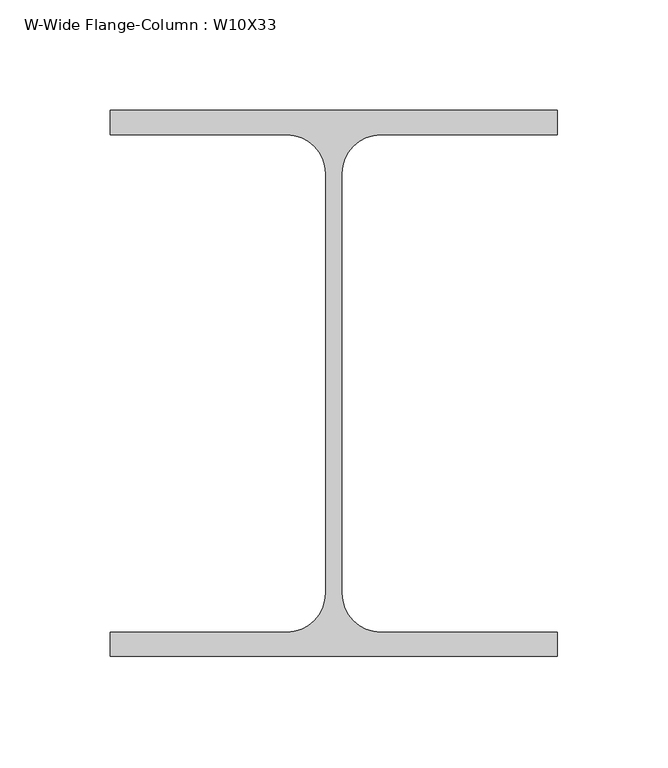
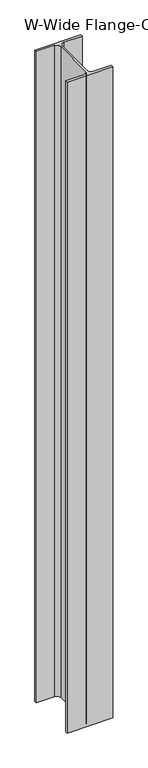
"""IFC4 building model written with IfcOpenShell, lengths in millimetres: column geometry, W-Wide Flange-Column : W10X33."""

from ifc_helpers import new_model, si_unit, point, frame_2d, origin, origin_with_axes, place, context, project, spatial, polyline, circle_curve, trimmed, segment, composite_curve, outline, extrude, source, transform, mapped, element, save


def w_wide_flange_column_w10x33_7f7bc32a(model_context):
    return source(origin(), model_context, "Body", "SweptSolid", [
        extrude(outline(composite_curve([segment(polyline([(101.1039062, 123.5769531), (101.1039062, 112.5636719), (21.2328125, 112.5636719)]), True, "CONTINUOUS"), segment(trimmed(circle_curve(frame_2d((21.2328125, 95.0019531)), 17.5617188), [point((21.2328125, 112.5636719))], [point((3.6710937, 95.0019531))], True, "CARTESIAN"), True, "CONTINUOUS"), segment(polyline([(3.6710937, 95.0019531), (3.6710937, -95.0019531)]), True, "CONTINUOUS"), segment(trimmed(circle_curve(frame_2d((21.2328125, -95.0019531)), 17.5617188), [point((3.6710937, -95.0019531))], [point((21.2328125, -112.5636719))], True, "CARTESIAN"), True, "CONTINUOUS"), segment(polyline([(21.2328125, -112.5636719), (101.1039062, -112.5636719), (101.1039062, -123.5769531), (-101.1039063, -123.5769531), (-101.1039063, -112.5636719), (-21.2328125, -112.5636719)]), True, "CONTINUOUS"), segment(trimmed(circle_curve(frame_2d((-21.2328125, -95.0019531)), 17.5617188), [point((-21.2328125, -112.5636719))], [point((-3.6710938, -95.0019531))], True, "CARTESIAN"), True, "CONTINUOUS"), segment(polyline([(-3.6710938, -95.0019531), (-3.6710938, 95.0019531)]), True, "CONTINUOUS"), segment(trimmed(circle_curve(frame_2d((-21.2328125, 95.0019531)), 17.5617188), [point((-3.6710938, 95.0019531))], [point((-21.2328125, 112.5636719))], True, "CARTESIAN"), True, "CONTINUOUS"), segment(polyline([(-21.2328125, 112.5636719), (-101.1039063, 112.5636719), (-101.1039063, 123.5769531), (101.1039062, 123.5769531)]), True, "CONTINUOUS")], self_intersect=False)), origin_with_axes(), (0.0, 0.0, 1.0), 3048.0),
    ])


if __name__ == "__main__":
    model = new_model("IFC4")
    model_context = context("Model", 3, world=origin())
    ifc_project = project(units=[si_unit("LENGTHUNIT", "METRE", prefix="MILLI")], contexts=[model_context])
    site = spatial("IfcSite", under=ifc_project)
    building = spatial("IfcBuilding", under=site)
    placement = place(None, origin())
    w_wide_flange_column_w10x33_shape = w_wide_flange_column_w10x33_7f7bc32a(model_context)
    element("IfcColumn", 1, ObjectType="W-Wide Flange-Column : W10X33", at=placement, inside=building, context=model_context, shape_type="MappedRepresentation", body=[
        mapped(w_wide_flange_column_w10x33_shape, transform((0.0, 0.0, 0.0), x_axis=(1.0, 0.0, 0.0), y_axis=(0.0, 1.0, 0.0), z_axis=(0.0, 0.0, 1.0))),
    ])
    save(model, "model.ifc")
